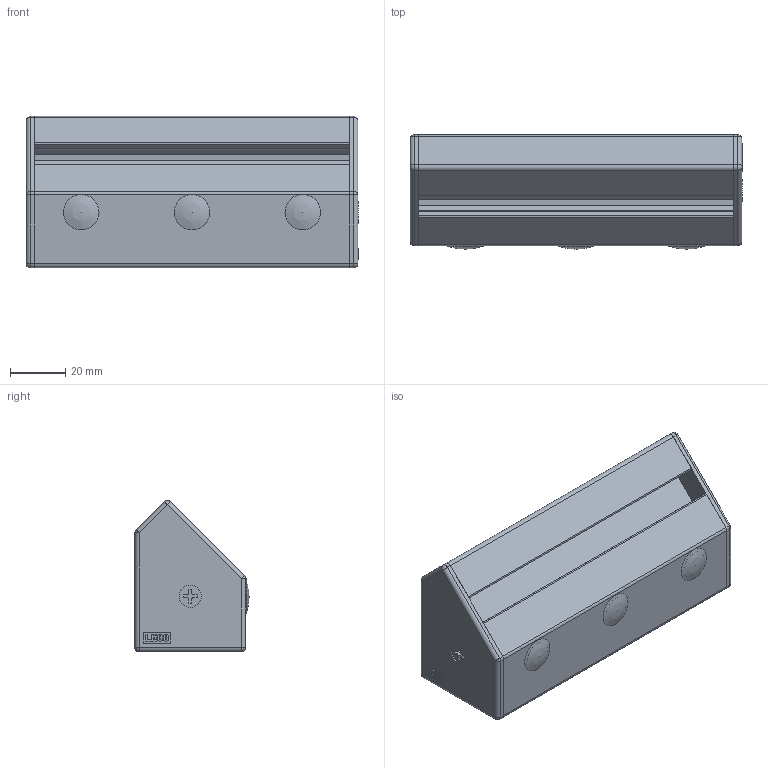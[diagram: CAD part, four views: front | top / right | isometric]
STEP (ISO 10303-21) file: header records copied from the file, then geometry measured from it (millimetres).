
FILE_DESCRIPTION(('STEP AP214'),'1');
FILE_NAME('PB4HA-L120.stp','2021-02-08T09:14:16',(' '),(' '),'Spatial InterOp 3D',' ',' ');
FILE_SCHEMA(('automotive_design'));
Length unit declared in the file: millimetre
Products named in the file (7): PB4HA-L120; PB4HA-120; CP10; E40A-R; E40A-L
Assembly tree (6 placements, depth 2):
  PB4HA-L120
    PB4HA-120
    CP10
    E40A-R
    E40A-L
    CP10
    CP10
Bounding box: 120 x 41.28 x 54.66 mm (x, y, z)
Volume: 76293.8 mm3; surface area: 71611.3 mm2
Topology: 6 solids, 6 shells, 569 faces, 1505 edges, 942 vertices
Faces by surface type: plane 269, cylinder 221, bspline 40, sphere 25, torus 11, cone 3
Full cylindrical faces by diameter (mm): 5.1 x3, 7.2 x3, 8 x2, 10 x6, 10.2 x3
Entity records: 27311 total; most frequent: CARTESIAN_POINT 8621, DIRECTION 2991, ORIENTED_EDGE 2878, EDGE_CURVE 1439, AXIS2_PLACEMENT_3D 1060, VERTEX_POINT 928, LINE 871, VECTOR 871
